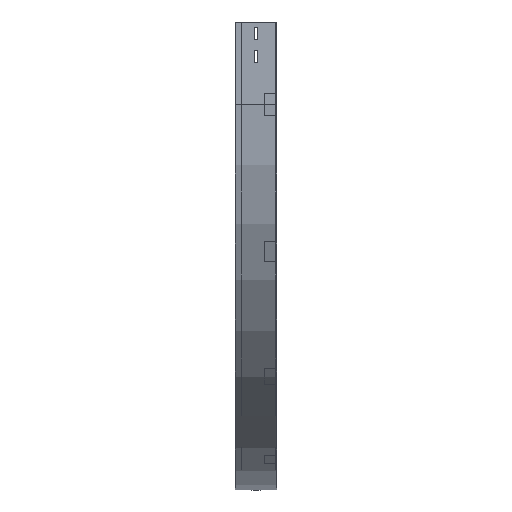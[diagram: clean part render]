
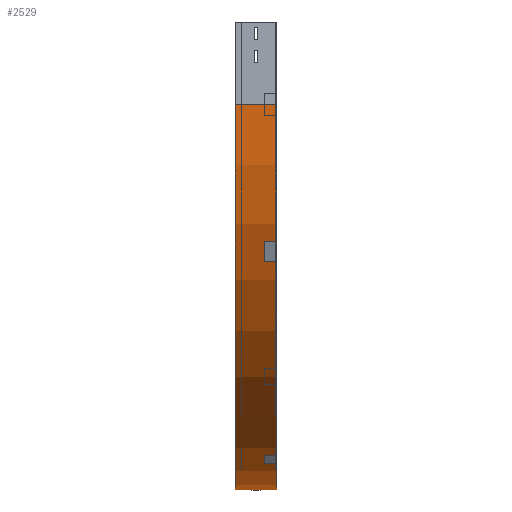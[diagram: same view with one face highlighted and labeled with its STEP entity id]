
A CAD part, left-side view. The second image highlights one B-rep face of the part: STEP entity #2529.
In plain terms, the highlighted cylindrical face has radius 700 mm (diameter 1400 mm), a partial arc.
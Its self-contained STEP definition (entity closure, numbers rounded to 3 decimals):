
#27 = LINE ( 'NONE', #926, #1608 ) ;
#212 = CARTESIAN_POINT ( 'NONE',  ( 0., 0., -150. ) ) ;
#478 = CARTESIAN_POINT ( 'NONE',  ( 700., 0., -150. ) ) ;
#926 = CARTESIAN_POINT ( 'NONE',  ( 700., 0., -850. ) ) ;
#976 = AXIS2_PLACEMENT_3D ( 'NONE', #478, #3186, #1652 ) ;
#1030 = EDGE_CURVE ( 'NONE', #2519, #2639, #27, .T. ) ;
#1104 = AXIS2_PLACEMENT_3D ( 'NONE', #1899, #1920, #3663 ) ;
#1121 = VECTOR ( 'NONE', #1975, 1000. ) ;
#1319 = AXIS2_PLACEMENT_3D ( 'NONE', #3349, #1602, #2793 ) ;
#1439 = CARTESIAN_POINT ( 'NONE',  ( 0., 75., -150. ) ) ;
#1492 = CIRCLE ( 'NONE', #1319, 700. ) ;
#1602 = DIRECTION ( 'NONE',  ( 0., -1., 0. ) ) ;
#1608 = VECTOR ( 'NONE', #2119, 1000. ) ;
#1620 = ORIENTED_EDGE ( 'NONE', *, *, #1030, .T. ) ;
#1641 = EDGE_LOOP ( 'NONE', ( #2331, #3255, #1800, #1620 ) ) ;
#1652 = DIRECTION ( 'NONE',  ( 0., 0., -1. ) ) ;
#1800 = ORIENTED_EDGE ( 'NONE', *, *, #3514, .T. ) ;
#1899 = CARTESIAN_POINT ( 'NONE',  ( 700., 75., -150. ) ) ;
#1920 = DIRECTION ( 'NONE',  ( 0., -1., 0. ) ) ;
#1975 = DIRECTION ( 'NONE',  ( 0., -1., 0. ) ) ;
#2002 = CYLINDRICAL_SURFACE ( 'NONE', #976, 700. ) ;
#2119 = DIRECTION ( 'NONE',  ( 0., -1., 0. ) ) ;
#2331 = ORIENTED_EDGE ( 'NONE', *, *, #3284, .F. ) ;
#2341 = CIRCLE ( 'NONE', #1104, 700. ) ;
#2425 = VERTEX_POINT ( 'NONE', #2579 ) ;
#2519 = VERTEX_POINT ( 'NONE', #3142 ) ;
#2529 = ADVANCED_FACE ( 'NONE', ( #3169 ), #2002, .T. ) ;
#2579 = CARTESIAN_POINT ( 'NONE',  ( 0., 0., -150. ) ) ;
#2639 = VERTEX_POINT ( 'NONE', #3657 ) ;
#2793 = DIRECTION ( 'NONE',  ( -1., 0., 0. ) ) ;
#2814 = EDGE_CURVE ( 'NONE', #3621, #2425, #3487, .T. ) ;
#3142 = CARTESIAN_POINT ( 'NONE',  ( 700., 75., -850. ) ) ;
#3169 = FACE_OUTER_BOUND ( 'NONE', #1641, .T. ) ;
#3186 = DIRECTION ( 'NONE',  ( 0., -1., 0. ) ) ;
#3255 = ORIENTED_EDGE ( 'NONE', *, *, #2814, .F. ) ;
#3284 = EDGE_CURVE ( 'NONE', #2425, #2639, #1492, .T. ) ;
#3349 = CARTESIAN_POINT ( 'NONE',  ( 700., 0., -150. ) ) ;
#3487 = LINE ( 'NONE', #212, #1121 ) ;
#3514 = EDGE_CURVE ( 'NONE', #3621, #2519, #2341, .T. ) ;
#3621 = VERTEX_POINT ( 'NONE', #1439 ) ;
#3657 = CARTESIAN_POINT ( 'NONE',  ( 700., 0., -850. ) ) ;
#3663 = DIRECTION ( 'NONE',  ( -1., 0., 0. ) ) ;
